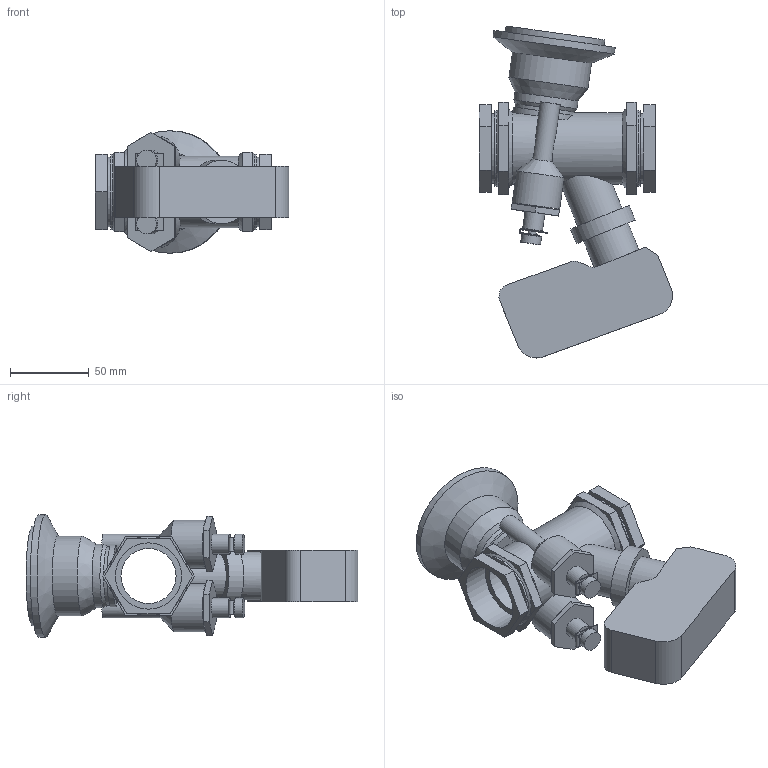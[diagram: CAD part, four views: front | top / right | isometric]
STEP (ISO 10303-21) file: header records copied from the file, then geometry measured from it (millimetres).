
FILE_DESCRIPTION(/* description */ ('VIC BALANCING AND CONTROL VALVE SERIES 7CP (FPT)-TA ACT','CAx-IF Rec.Pracs.---Representation and Presentation of Product Manufacturing Information (PMI)---4.0---2014-10-13'),/* implementation_level */ '2;1');
FILE_NAME(/* name */ 'C:\Users\Vjadhav\AppData\Roaming\Autodesk\ApplicationPlugins\Victaulic.Temp\A633\Victaulic_IPS_Valve Balancing Pressure Independent_TA Series 7CP (FPT)_TA ACT_1.25 (32).stp',/* time_stamp */ '2021-09-14T20:04:18+06:00',/* author */ ('Vjadhav'),/* organization */ ('Victaulic'),/* preprocessor_version */ 'ST-DEVELOPER v17.2',/* originating_system */ 'Autodesk Inventor 2019',/* authorisation */ '');
FILE_SCHEMA (('AP242_MANAGED_MODEL_BASED_3D_ENGINEERING_MIM_LF { 1 0 10303 442 1 1 4 }'));
Length unit declared in the file: inch
Products named in the file (2): 7CP_TA ACT-01.25; 7CP-01.25
Assembly tree (1 placements, depth 2):
  7CP_TA ACT-01.25
    7CP-01.25
Bounding box: 122.98 x 211.33 x 77.98 mm (x, y, z)
Volume: 413802.1 mm3; surface area: 88822.8 mm2
Topology: 1 solids, 1 shells, 175 faces, 449 edges, 299 vertices
Faces by surface type: plane 118, cylinder 47, cone 10
Full cylindrical faces by diameter (mm): 5.08 x6, 12.7 x8, 30.48 x4, 35.052 x2, 40.232 x1, 40.64 x1, 42.164 x3, 44.45 x2, 45.72 x1, 48.26 x2, 50.8 x1, 63.5 x1, 77.978 x1
Entity records: 5922 total; most frequent: CARTESIAN_POINT 1212, DIRECTION 959, ORIENTED_EDGE 898, EDGE_CURVE 449, AXIS2_PLACEMENT_3D 354, VERTEX_POINT 299, LINE 251, VECTOR 251
